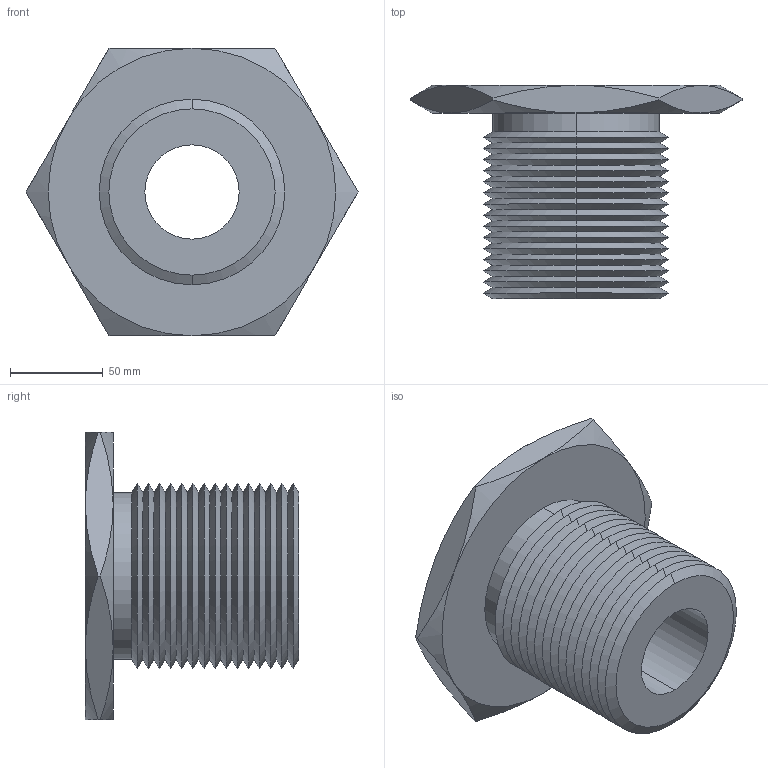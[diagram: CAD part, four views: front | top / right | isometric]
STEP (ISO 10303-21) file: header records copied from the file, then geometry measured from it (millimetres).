
FILE_DESCRIPTION (( 'STEP AP203' ), '1' );
FILE_NAME ('63302.W0100_2,00 UNC-4,5.step', '2013-12-08T11:33:32', ( 'User' ), ( '' ), 'SwSTEP 2.0', 'SolidWorks 2009', '' );
FILE_SCHEMA (( 'CONFIG_CONTROL_DESIGN' ));
Length unit declared in the file: millimetre
Products named in the file (1): 63302.W0100_2,00 UNC-4,5
Bounding box: 178.98 x 115 x 155 mm (x, y, z)
Volume: 767202.1 mm3; surface area: 117954.9 mm2
Topology: 1 solids, 1 shells, 87 faces, 178 edges, 94 vertices
Faces by surface type: cone 74, plane 9, cylinder 4
Entity records: 2479 total; most frequent: CARTESIAN_POINT 584, DIRECTION 412, ORIENTED_EDGE 356, EDGE_CURVE 178, AXIS2_PLACEMENT_3D 170, VERTEX_POINT 94, EDGE_LOOP 90, ADVANCED_FACE 87
